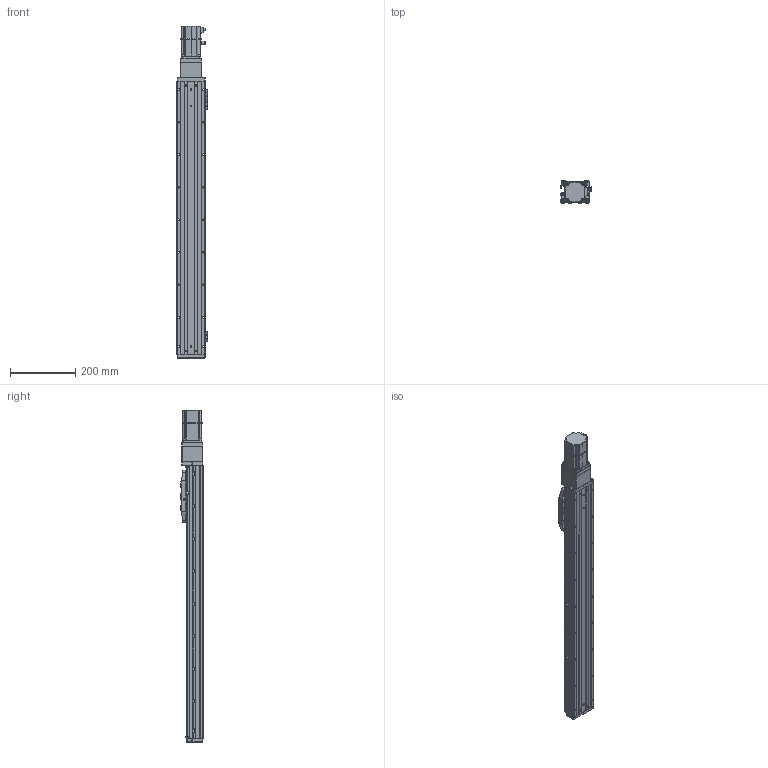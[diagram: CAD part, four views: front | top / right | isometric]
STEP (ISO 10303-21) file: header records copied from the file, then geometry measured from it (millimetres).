
FILE_DESCRIPTION (( 'STEP AP203' ), '1' );
FILE_NAME ('CTHA86-650-BC-M20-C4L.step', '2022-04-26T00:47:49', ( '微软用户' ), ( '微软中国' ), 'SwSTEP 2.0', 'SolidWorks 2020', '' );
FILE_SCHEMA (( 'CONFIG_CONTROL_DESIGN' ));
Length unit declared in the file: millimetre
Products named in the file (22): CTHA86-650-BC-M20-C4L; KTHA86-004; GBT 70.1-M3×20; CTHA86-006-1_CTHA86-006-2; KTHA86-005; GBT70.1 M5℅16; _X2_4E0983F1_X0_200W_1; GB¨uT 70.2-M3¡Á5_M3¡Á6; GBT 70.1-M3×16; GBT 70.3-M3℅6; EE_SX911P_R; GBT 70.1-M3℅6; CTHA86-002; CTHA60-017; CTHA60-016; CTHA86-031; CTHA60-021; CTHA86-013; CTHA86-030; KTHA86-001_840; GBT77-2000 M3×3; CTHA86-027
Assembly tree (65 placements, depth 2):
  CTHA86-650-BC-M20-C4L
    KTHA86-001_840
    KTHA86-004
    KTHA86-005
    GB¨uT 70.2-M3¡Á5_M3¡Á6  x10
    EE_SX911P_R  x3
    CTHA60-017  x3
    CTHA60-021  x2
    GBT77-2000 M3×3  x6
    GBT 70.1-M3×20
    GBT70.1 M5℅16  x14
    GBT 70.1-M3×16
    GBT 70.1-M3℅6  x6
    CTHA60-016  x2
    CTHA86-013
    CTHA86-027
    CTHA86-006-1_CTHA86-006-2
    _X2_4E0983F1_X0_200W_1
    GBT 70.3-M3℅6  x6
    CTHA86-002
    CTHA86-031
    CTHA86-030  x2
Bounding box: 93.82 x 68 x 1020.5 mm (x, y, z)
Volume: 3412504.1 mm3; surface area: 604695.3 mm2
Topology: 67 solids, 67 shells, 2734 faces, 6527 edges, 4012 vertices
Faces by surface type: plane 1428, cylinder 703, cone 390, torus 120, bspline 69, sphere 24
Entity records: 48275 total; most frequent: CARTESIAN_POINT 8960, DIRECTION 7598, ORIENTED_EDGE 7310, EDGE_CURVE 3655, AXIS2_PLACEMENT_3D 2586, LINE 2426, VECTOR 2426, VERTEX_POINT 2290
